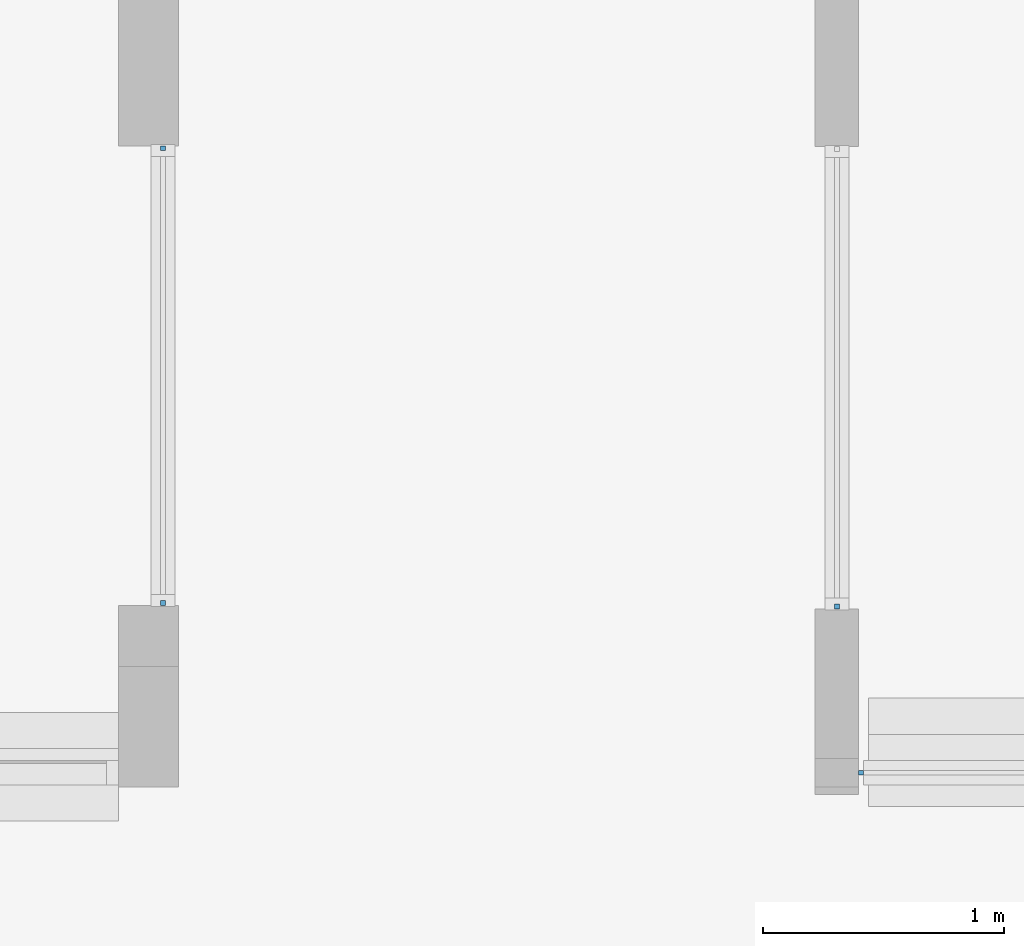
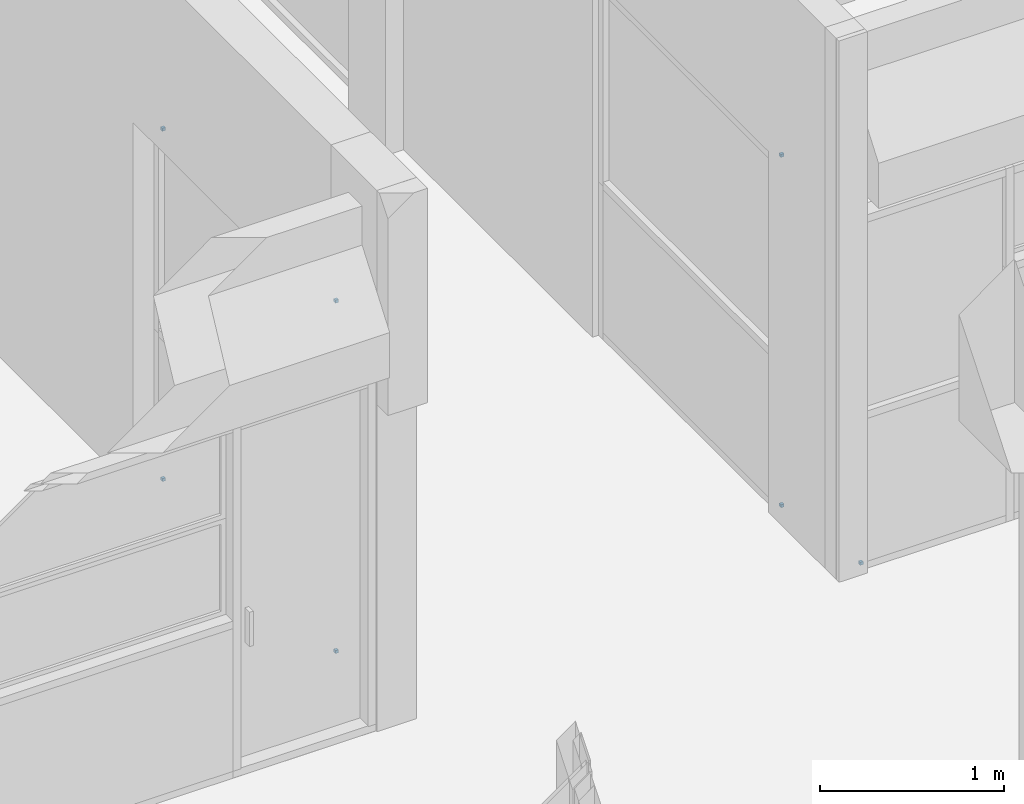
# One storey, part 56 of 117: 7 plates, 3 elements without a shape of their own.
"""IFC4 building model written with IfcOpenShell, lengths in metres."""

import ifcopenshell
import ifcopenshell.guid

model = None  # the IFC model being written
_history = None  # IfcOwnerHistory: only IFC2X3 demands one
_inside = {}  # id of a spatial element -> (the spatial element, [elements in it])
_under = {}  # id of a project, library or spatial element -> (it, [spatial elements below it])
_declared = {}  # id of a project -> (the project, [libraries it declares])
_typed = {}  # id of a type object -> (the type object, [elements of that type])
_made_of = {}  # id of a material, layer set ... -> (it, [elements and type objects made of it])


def new_model(schema):
    """Start an empty IFC model of exactly this schema.

    Asked for "IFC4X3", IfcOpenShell would pick the latest addendum, in which some entities
    have other attributes; the version numbers below select the first issue.
    IFC2X3 requires an IfcOwnerHistory on every rooted entity: one is made here for all.
    """
    global model, _history
    if schema == "IFC4X3":
        model = ifcopenshell.file(schema_version=(4, 3, 0, 0))
    else:
        model = ifcopenshell.file(schema=schema)
    _inside.clear()
    _under.clear()
    _declared.clear()
    _typed.clear()
    _made_of.clear()
    _history = None
    if model.schema == "IFC2X3":
        org = make("IfcOrganization", Name="unknown")
        user = make(
            "IfcPersonAndOrganization",
            ThePerson=make("IfcPerson", FamilyName="unknown"),
            TheOrganization=org,
        )
        app = make(
            "IfcApplication",
            ApplicationDeveloper=org,
            Version="unknown",
            ApplicationFullName="unknown",
            ApplicationIdentifier="unknown",
        )
        _history = make(
            "IfcOwnerHistory",
            OwningUser=user,
            OwningApplication=app,
            ChangeAction="ADDED",
            CreationDate=0,
        )
    return model


def make(cls, **values):
    """One entity of the class cls with the attributes given. An attribute that is None is left unset."""
    return model.create_entity(
        cls, **{name: value for name, value in values.items() if value is not None}
    )


def entity(cls, *values):
    """Any entity or typed value of the class cls, its attributes in the order of the schema. None: left unset."""
    e = model.create_entity(cls)
    for i, value in enumerate(values):
        if value is not None:
            e[i] = value
    return e


def rooted(cls, **values):
    """An entity with a GlobalId (a new one), such as an element, a storey or a relation."""
    return make(cls, GlobalId=ifcopenshell.guid.new(), OwnerHistory=_history, **values)


def si_unit(unit_type, name, prefix=None):
    """IfcSIUnit, for example si_unit("LENGTHUNIT", "METRE", prefix="MILLI")."""
    return make("IfcSIUnit", UnitType=unit_type, Prefix=prefix, Name=name)


def converted_unit(unit_type, name, factor, base, dimensions=None, offset=None):
    """IfcConversionBasedUnit, such as the inch: factor (a typed value) times the base unit."""
    return make(
        "IfcConversionBasedUnit"
        if offset is None
        else "IfcConversionBasedUnitWithOffset",
        ConversionOffset=offset,
        Dimensions=None
        if dimensions is None
        else entity("IfcDimensionalExponents", *dimensions),
        UnitType=unit_type,
        Name=name,
        ConversionFactor=make(
            "IfcMeasureWithUnit", ValueComponent=factor, UnitComponent=base
        ),
    )


def derived_unit(unit_type, elements):
    """IfcDerivedUnit: a product of units, each with its exponent."""
    return make(
        "IfcDerivedUnit",
        Elements=[
            make("IfcDerivedUnitElement", Unit=unit, Exponent=power)
            for unit, power in elements
        ],
        UnitType=unit_type,
    )


def assignment(units):
    """IfcUnitAssignment: the units of a project."""
    return None if units is None else make("IfcUnitAssignment", Units=units)


def point(xyz):
    """IfcCartesianPoint."""
    return None if xyz is None else make("IfcCartesianPoint", Coordinates=xyz)


def direction(xyz):
    """IfcDirection."""
    return None if xyz is None else make("IfcDirection", DirectionRatios=xyz)


def frame(location, z_axis=None, x_axis=None):
    """IfcAxis2Placement3D, a coordinate frame: its origin and axes. An axis left out is left unset."""
    return make(
        "IfcAxis2Placement3D",
        Location=point(location),
        Axis=direction(z_axis),
        RefDirection=direction(x_axis),
    )


def origin():
    """The frame at (0, 0, 0) with its axes left unset."""
    return frame((0.0, 0.0, 0.0))


def place(relative_to, where):
    """IfcLocalPlacement: puts the frame where relative to a parent placement (None: the world)."""
    return make(
        "IfcLocalPlacement", PlacementRelTo=relative_to, RelativePlacement=where
    )


def context(
    kind, dimensions, precision=None, world=None, true_north=None, identifier=None
):
    """IfcGeometricRepresentationContext, for example the 3D "Model" context."""
    return make(
        "IfcGeometricRepresentationContext",
        ContextIdentifier=identifier,
        ContextType=kind,
        CoordinateSpaceDimension=dimensions,
        Precision=precision,
        WorldCoordinateSystem=world,
        TrueNorth=true_north,
    )


def subcontext(parent, identifier, kind, view, scale=None):
    """IfcGeometricRepresentationSubContext, for example "Body" below "Model"."""
    return make(
        "IfcGeometricRepresentationSubContext",
        ContextIdentifier=identifier,
        ContextType=kind,
        ParentContext=parent,
        TargetScale=scale,
        TargetView=view,
    )


def project(units=None, contexts=None):
    """IfcProject with its units and contexts."""
    return rooted(
        "IfcProject",
        Name="project",
        RepresentationContexts=contexts,
        UnitsInContext=assignment(units),
    )


def spatial(cls, under=None, at=None, **own):
    """A site, building, storey or space (cls), placed at a placement, below another one or the project."""
    s = rooted(cls, ObjectPlacement=at, **own)
    if under is not None:
        _under.setdefault(under.id(), (under, []))[1].append(s)
    return s


def point_list(points):
    """IfcCartesianPointList2D or 3D."""
    cls = (
        "IfcCartesianPointList2D" if len(points[0]) == 2 else "IfcCartesianPointList3D"
    )
    return make(cls, CoordList=points)


def indexed_curve(points, segments=None, self_intersect=None):
    """IfcIndexedPolyCurve: lines and arcs through numbered points (the first is 1)."""
    return make(
        "IfcIndexedPolyCurve",
        Points=point_list(points),
        Segments=segments,
        SelfIntersect=self_intersect,
    )


def outline(outer, holes=None, kind="AREA"):
    """IfcArbitraryClosedProfileDef: a profile drawn as a closed curve; with holes, ...WithVoids."""
    if holes is None:
        return make("IfcArbitraryClosedProfileDef", ProfileType=kind, OuterCurve=outer)
    return make(
        "IfcArbitraryProfileDefWithVoids",
        ProfileType=kind,
        OuterCurve=outer,
        InnerCurves=holes,
    )


def extrude(swept, where, along, depth):
    """IfcExtrudedAreaSolid: the profile swept, set in the frame where, extruded along a direction by depth."""
    return make(
        "IfcExtrudedAreaSolid",
        SweptArea=swept,
        Position=where,
        ExtrudedDirection=direction(along),
        Depth=depth,
    )


def shape(context_of_items, identifier, shape_type, items):
    """IfcShapeRepresentation: the items that make up one representation, for example the "Body"."""
    return make(
        "IfcShapeRepresentation",
        ContextOfItems=context_of_items,
        RepresentationIdentifier=identifier,
        RepresentationType=shape_type,
        Items=items,
    )


def source(mapping_origin, context_of_items, identifier, shape_type, items):
    """IfcRepresentationMap: a shape defined once, which mapped items show again and again."""
    return make(
        "IfcRepresentationMap",
        MappingOrigin=mapping_origin,
        MappedRepresentation=shape(context_of_items, identifier, shape_type, items),
    )


def transform(
    local_origin,
    x_axis=None,
    y_axis=None,
    z_axis=None,
    scale=None,
    scale2=None,
    scale3=None,
    uniform=True,
):
    """IfcCartesianTransformationOperator3D, or its non-uniform kind. x_axis, y_axis, z_axis: its Axis1, 2, 3."""
    if uniform:
        return make(
            "IfcCartesianTransformationOperator3D",
            Axis1=direction(x_axis),
            Axis2=direction(y_axis),
            LocalOrigin=point(local_origin),
            Scale=scale,
            Axis3=direction(z_axis),
        )
    return make(
        "IfcCartesianTransformationOperator3DnonUniform",
        Axis1=direction(x_axis),
        Axis2=direction(y_axis),
        LocalOrigin=point(local_origin),
        Scale=scale,
        Axis3=direction(z_axis),
        Scale2=scale2,
        Scale3=scale3,
    )


def mapped(mapping_source, mapping_target):
    """IfcMappedItem: shows the shape of a source again, moved by a transform."""
    return make(
        "IfcMappedItem", MappingSource=mapping_source, MappingTarget=mapping_target
    )


def material(Name=None, Category=None):
    """IfcMaterial."""
    return make("IfcMaterial", Name=Name, Category=Category)


def made_of(thing, what):
    """Note that an element or type object is made of a material, layer set ...; save() writes the relation."""
    if what is not None:
        _made_of.setdefault(what.id(), (what, []))[1].append(thing)
    return thing


def type_object(cls, material=None, **own):
    """A type object (cls), such as IfcWallType, which elements share."""
    return made_of(rooted(cls, **own), material)


def type_shapes(of_type, sources):
    """Give a type object the sources (RepresentationMaps) that its elements show as mapped items."""
    of_type.RepresentationMaps = sources


def element(
    cls,
    number,
    at=None,
    inside=None,
    cuts=None,
    type_object=None,
    material=None,
    context=None,
    identifier="Body",
    shape_type=None,
    held_by="IfcProductDefinitionShape",
    body=None,
    shapes=None,
    **own,
):
    """One element of the class cls, such as IfcWall. Its Tag is "e" and its number.

    at: its placement. inside: the storey or other place that contains it. cuts: it is an
    opening in that element (IfcRelVoidsElement). A single representation is given by context,
    identifier, shape_type and body (its items); several are given by shapes. held_by: the class
    of the entity that holds the representations. save() writes the other relations.
    """
    e = rooted(cls, Tag="e%d" % number, ObjectPlacement=at, **own)
    if body is not None:
        shapes = [shape(context, identifier, shape_type, body)]
    if shapes is not None:
        e.Representation = make(held_by, Representations=shapes)
    if inside is not None:
        _inside.setdefault(inside.id(), (inside, []))[1].append(e)
    if cuts is not None:
        rooted(
            "IfcRelVoidsElement", RelatingBuildingElement=cuts, RelatedOpeningElement=e
        )
    if type_object is not None:
        _typed.setdefault(type_object.id(), (type_object, []))[1].append(e)
    return made_of(e, material)


def aggregate(whole, parts):
    """IfcRelAggregates: a whole, such as a stair, and the parts it consists of."""
    return rooted("IfcRelAggregates", RelatingObject=whole, RelatedObjects=parts)


def save(model, path):
    """Write the relations noted so far, then the file.

    IfcRelAggregates (storeys below a building ...), IfcRelContainedInSpatialStructure (elements
    in a storey), IfcRelDefinesByType, IfcRelAssociatesMaterial and IfcRelDeclares: one each for
    every whole, place, type object, material and project.
    """
    for whole, parts in _under.values():
        aggregate(whole, parts)
    for where, things in _inside.values():
        rooted(
            "IfcRelContainedInSpatialStructure",
            RelatedElements=things,
            RelatingStructure=where,
        )
    for kind, things in _typed.values():
        rooted("IfcRelDefinesByType", RelatedObjects=things, RelatingType=kind)
    for what, things in _made_of.values():
        rooted("IfcRelAssociatesMaterial", RelatedObjects=things, RelatingMaterial=what)
    for by, libraries in _declared.values():
        rooted("IfcRelDeclares", RelatingContext=by, RelatedDefinitions=libraries)
    model.write(path)


model = new_model("IFC4")

# Units and contexts
model_context = context("Model", 3, precision=1e-05, world=origin(), true_north=direction((6.123031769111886e-17, 1.0)))
body_context = subcontext(model_context, "Body", "Model", "MODEL_VIEW")
ifc_project = project(units=[si_unit("LENGTHUNIT", "METRE"), si_unit("AREAUNIT", "SQUARE_METRE"), si_unit("VOLUMEUNIT", "CUBIC_METRE"), converted_unit("PLANEANGLEUNIT", "DEGREE", entity("IfcRatioMeasure", 0.017453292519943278), si_unit("PLANEANGLEUNIT", "RADIAN"), dimensions=[0, 0, 0, 0, 0, 0, 0]), si_unit("MASSUNIT", "GRAM", prefix="KILO"), derived_unit("MASSDENSITYUNIT", [(si_unit("MASSUNIT", "GRAM", prefix="KILO"), 1), (si_unit("LENGTHUNIT", "METRE"), -3)]), derived_unit("MOMENTOFINERTIAUNIT", [(si_unit("LENGTHUNIT", "METRE"), 4)]), si_unit("TIMEUNIT", "SECOND"), si_unit("FREQUENCYUNIT", "HERTZ"), si_unit("THERMODYNAMICTEMPERATUREUNIT", "DEGREE_CELSIUS"), derived_unit("THERMALTRANSMITTANCEUNIT", [(si_unit("MASSUNIT", "GRAM", prefix="KILO"), 1), (si_unit("THERMODYNAMICTEMPERATUREUNIT", "KELVIN"), -1), (si_unit("TIMEUNIT", "SECOND"), -3)]), derived_unit("VOLUMETRICFLOWRATEUNIT", [(si_unit("LENGTHUNIT", "METRE"), 3), (si_unit("TIMEUNIT", "SECOND"), -1)]), derived_unit("MASSFLOWRATEUNIT", [(si_unit("MASSUNIT", "GRAM", prefix="KILO"), 1), (si_unit("TIMEUNIT", "SECOND"), -1)]), derived_unit("ROTATIONALFREQUENCYUNIT", [(si_unit("TIMEUNIT", "SECOND"), -1)]), si_unit("ELECTRICCURRENTUNIT", "AMPERE"), si_unit("ELECTRICVOLTAGEUNIT", "VOLT"), si_unit("POWERUNIT", "WATT"), si_unit("FORCEUNIT", "NEWTON", prefix="KILO"), si_unit("ILLUMINANCEUNIT", "LUX"), si_unit("LUMINOUSFLUXUNIT", "LUMEN"), si_unit("LUMINOUSINTENSITYUNIT", "CANDELA"), derived_unit("USERDEFINED", [(si_unit("MASSUNIT", "GRAM", prefix="KILO"), -1), (si_unit("LENGTHUNIT", "METRE"), -2), (si_unit("TIMEUNIT", "SECOND"), 3), (si_unit("LUMINOUSFLUXUNIT", "LUMEN"), 1)]), derived_unit("SOUNDPOWERUNIT", [(si_unit("MASSUNIT", "GRAM", prefix="KILO"), 1), (si_unit("LENGTHUNIT", "METRE"), 2), (si_unit("TIMEUNIT", "SECOND"), -3)]), derived_unit("SOUNDPRESSUREUNIT", [(si_unit("MASSUNIT", "GRAM", prefix="KILO"), 1), (si_unit("LENGTHUNIT", "METRE"), -1), (si_unit("TIMEUNIT", "SECOND"), -2)]), derived_unit("LINEARVELOCITYUNIT", [(si_unit("LENGTHUNIT", "METRE"), 1), (si_unit("TIMEUNIT", "SECOND"), -1)]), si_unit("PRESSUREUNIT", "PASCAL"), derived_unit("USERDEFINED", [(si_unit("LENGTHUNIT", "METRE"), -2), (si_unit("MASSUNIT", "GRAM", prefix="KILO"), 1), (si_unit("TIMEUNIT", "SECOND"), -2)]), derived_unit("LINEARFORCEUNIT", [(si_unit("MASSUNIT", "GRAM", prefix="KILO"), 1), (si_unit("LENGTHUNIT", "METRE"), 1), (si_unit("TIMEUNIT", "SECOND"), -2), (si_unit("LENGTHUNIT", "METRE"), -1)]), derived_unit("PLANARFORCEUNIT", [(si_unit("MASSUNIT", "GRAM", prefix="KILO"), 1), (si_unit("LENGTHUNIT", "METRE"), 1), (si_unit("TIMEUNIT", "SECOND"), -2), (si_unit("LENGTHUNIT", "METRE"), -2)])], contexts=[model_context])

# Site, building, storey
site_placement = place(None, origin())
site = spatial("IfcSite", under=ifc_project, at=site_placement, Name="Superficie", CompositionType="ELEMENT")
building_placement = place(site_placement, origin())
building = spatial("IfcBuilding", under=site, at=building_placement, CompositionType="ELEMENT")
storey_placement = place(building_placement, origin())
storey = spatial("IfcBuildingStorey", under=building, at=storey_placement, Name="Nivel 0", CompositionType="ELEMENT", Elevation=0.0)

# Curtain wall, plate
curtain_wall_type = type_object("IfcCurtainWallType", Name="Muro cortina:Muro cortina - simple", PredefinedType="NOTDEFINED")
curtain_wall_1_placement = place(storey_placement, origin())
curtain_wall_1 = element("IfcCurtainWall", 1, at=curtain_wall_1_placement, inside=storey, type_object=curtain_wall_type, Name="Muro cortina:Muro cortina - simple", ObjectType="Muro cortina:Muro cortina - simple", PredefinedType="NOTDEFINED")
ifc_material = material(Name="Cristal", Category="Vidrio")
plate_type = type_object("IfcPlateType", Name="Panel de sistema:Acristalado", PredefinedType="CURTAIN_PANEL", material=ifc_material)
shared_shape = source(origin(), body_context, "Body", "SweptSolid", [
    extrude(outline(indexed_curve([(-0.01, -0.009999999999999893), (0.01, -0.009999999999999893), (0.01, 0.009999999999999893), (-0.01, 0.009999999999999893), (-0.01, -0.009999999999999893)], self_intersect=False)), frame((0.0, 0.0, 0.0), z_axis=(0.0, 0.0, 1.0), x_axis=(0.0, 1.0, 0.0)), (0.0, 0.0, 1.0), 0.02000000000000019),
])
type_shapes(plate_type, [shared_shape])
plate_1_placement = place(curtain_wall_1_placement, frame((-15.313200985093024, 5.715829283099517, 0.0)))
plate_1 = element("IfcPlate", 2, at=plate_1_placement, type_object=plate_type, material=ifc_material, Name="Panel de sistema:Acristalado", ObjectType="Panel de sistema:Acristalado", PredefinedType="CURTAIN_PANEL", context=body_context, shape_type="MappedRepresentation", body=[
    mapped(shared_shape, transform((0.0, 0.0, 0.0), scale=1.0)),
])
aggregate(curtain_wall_1, [plate_1])

# Curtain wall, plates
curtain_wall_2_placement = place(storey_placement, origin())
curtain_wall_2 = element("IfcCurtainWall", 3, at=curtain_wall_2_placement, inside=storey, type_object=curtain_wall_type, Name="Muro cortina:Muro cortina - simple", ObjectType="Muro cortina:Muro cortina - simple", PredefinedType="NOTDEFINED")
plate_2_placement = place(curtain_wall_2_placement, frame((-15.41320098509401, 6.405829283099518, 0.0), z_axis=(0.0, 0.0, 1.0), x_axis=(0.0, -1.0, 0.0)))
plate_2 = element("IfcPlate", 4, at=plate_2_placement, type_object=plate_type, material=ifc_material, Name="Panel de sistema:Acristalado", ObjectType="Panel de sistema:Acristalado", PredefinedType="CURTAIN_PANEL", context=body_context, shape_type="MappedRepresentation", body=[
    mapped(shared_shape, transform((0.0, 0.0, 0.0), scale=1.0)),
])
plate_3_placement = place(curtain_wall_2_placement, frame((-15.41320098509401, 6.405829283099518, 2.33), z_axis=(0.0, 0.0, 1.0), x_axis=(0.0, -1.0, 0.0)))
plate_3 = element("IfcPlate", 5, at=plate_3_placement, type_object=plate_type, material=ifc_material, Name="Panel de sistema:Acristalado", ObjectType="Panel de sistema:Acristalado", PredefinedType="CURTAIN_PANEL", context=body_context, shape_type="MappedRepresentation", body=[
    mapped(shared_shape, transform((0.0, 0.0, 0.0), scale=1.0)),
])
aggregate(curtain_wall_2, [plate_2, plate_3])

curtain_wall_3_placement = place(storey_placement, origin())
curtain_wall_3 = element("IfcCurtainWall", 6, at=curtain_wall_3_placement, inside=storey, type_object=curtain_wall_type, Name="Muro cortina:Muro cortina - simple", ObjectType="Muro cortina:Muro cortina - simple", PredefinedType="NOTDEFINED")
plate_4_placement = place(curtain_wall_3_placement, frame((-18.208200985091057, 6.419744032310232, 0.0), z_axis=(0.0, 0.0, 1.0), x_axis=(0.0, 1.0, 0.0)))
plate_4 = element("IfcPlate", 7, at=plate_4_placement, type_object=plate_type, material=ifc_material, Name="Panel de sistema:Acristalado", ObjectType="Panel de sistema:Acristalado", PredefinedType="CURTAIN_PANEL", context=body_context, shape_type="MappedRepresentation", body=[
    mapped(shared_shape, transform((0.0, 0.0, 0.0), scale=1.0)),
])
plate_5_placement = place(curtain_wall_3_placement, frame((-18.208200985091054, 8.30582928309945, 0.0), z_axis=(0.0, 0.0, 1.0), x_axis=(0.0, 1.0, 0.0)))
plate_5 = element("IfcPlate", 8, at=plate_5_placement, type_object=plate_type, material=ifc_material, Name="Panel de sistema:Acristalado", ObjectType="Panel de sistema:Acristalado", PredefinedType="CURTAIN_PANEL", context=body_context, shape_type="MappedRepresentation", body=[
    mapped(shared_shape, transform((0.0, 0.0, 0.0), scale=1.0)),
])
plate_6_placement = place(curtain_wall_3_placement, frame((-18.208200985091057, 6.419744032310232, 2.33), z_axis=(0.0, 0.0, 1.0), x_axis=(0.0, 1.0, 0.0)))
plate_6 = element("IfcPlate", 9, at=plate_6_placement, type_object=plate_type, material=ifc_material, Name="Panel de sistema:Acristalado", ObjectType="Panel de sistema:Acristalado", PredefinedType="CURTAIN_PANEL", context=body_context, shape_type="MappedRepresentation", body=[
    mapped(shared_shape, transform((0.0, 0.0, 0.0), scale=1.0)),
])
plate_7_placement = place(curtain_wall_3_placement, frame((-18.208200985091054, 8.30582928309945, 2.33), z_axis=(0.0, 0.0, 1.0), x_axis=(0.0, 1.0, 0.0)))
plate_7 = element("IfcPlate", 10, at=plate_7_placement, type_object=plate_type, material=ifc_material, Name="Panel de sistema:Acristalado", ObjectType="Panel de sistema:Acristalado", PredefinedType="CURTAIN_PANEL", context=body_context, shape_type="MappedRepresentation", body=[
    mapped(shared_shape, transform((0.0, 0.0, 0.0), scale=1.0)),
])
aggregate(curtain_wall_3, [plate_4, plate_5, plate_6, plate_7])

save(model, "model.ifc")
